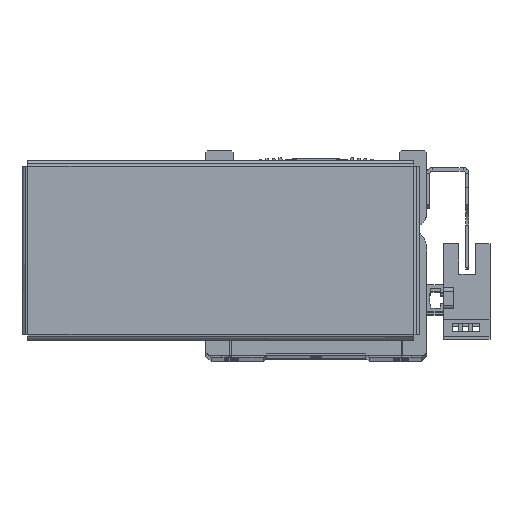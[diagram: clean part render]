
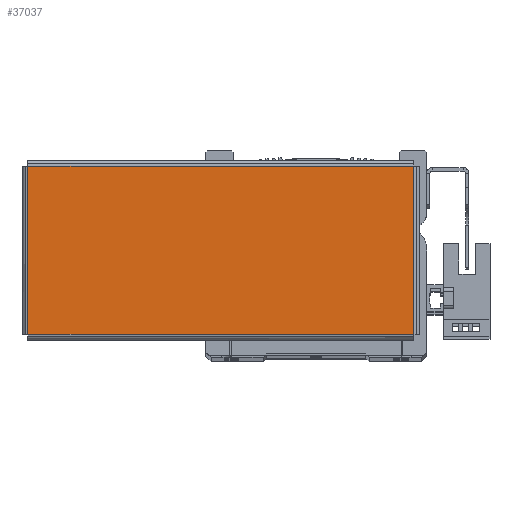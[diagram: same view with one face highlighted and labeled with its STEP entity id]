
A CAD part, top view. The second image highlights one B-rep face of the part: STEP entity #37037.
In plain terms, the highlighted planar face has unit normal (0, 0, 1) as drawn and (0, 0, -1) by its records, which use the part's own axes.
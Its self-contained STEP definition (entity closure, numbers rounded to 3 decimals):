
#3012 = AXIS2_PLACEMENT_3D ( 'NONE', #8557, #8575, #8550 ) ;
#6317 = FACE_OUTER_BOUND ( 'NONE', #31381, .T. ) ;
#7780 = VERTEX_POINT ( 'NONE', #32976 ) ;
#7792 = VERTEX_POINT ( 'NONE', #32950 ) ;
#7795 = VERTEX_POINT ( 'NONE', #33007 ) ;
#7809 = VERTEX_POINT ( 'NONE', #33056 ) ;
#8541 = PLANE ( 'NONE',  #3012 ) ;
#8550 = DIRECTION ( 'NONE',  ( 1., 0., 0. ) ) ;
#8557 = CARTESIAN_POINT ( 'NONE',  ( 0., 0., -1. ) ) ;
#8575 = DIRECTION ( 'NONE',  ( 0., 0., 1. ) ) ;
#12066 = LINE ( 'NONE', #12689, #12099 ) ;
#12068 = VECTOR ( 'NONE', #12706, 1000. ) ;
#12099 = VECTOR ( 'NONE', #12704, 1000. ) ;
#12107 = VECTOR ( 'NONE', #12687, 1000. ) ;
#12108 = LINE ( 'NONE', #12680, #12107 ) ;
#12125 = LINE ( 'NONE', #12730, #12068 ) ;
#12138 = LINE ( 'NONE', #12805, #12186 ) ;
#12186 = VECTOR ( 'NONE', #12791, 1000. ) ;
#12680 = CARTESIAN_POINT ( 'NONE',  ( 56.893, -24.763, -1. ) ) ;
#12687 = DIRECTION ( 'NONE',  ( -1., 0., 0. ) ) ;
#12689 = CARTESIAN_POINT ( 'NONE',  ( 56.863, 24.793, -1. ) ) ;
#12704 = DIRECTION ( 'NONE',  ( 0., -1., 0. ) ) ;
#12706 = DIRECTION ( 'NONE',  ( 0., 1., 0. ) ) ;
#12730 = CARTESIAN_POINT ( 'NONE',  ( -56.863, -24.793, -1. ) ) ;
#12791 = DIRECTION ( 'NONE',  ( 1., 0., 0. ) ) ;
#12805 = CARTESIAN_POINT ( 'NONE',  ( -56.893, 24.763, -1. ) ) ;
#31381 = EDGE_LOOP ( 'NONE', ( #39604, #39587, #39552, #39575 ) ) ;
#32950 = CARTESIAN_POINT ( 'NONE',  ( -56.863, 24.763, -1. ) ) ;
#32976 = CARTESIAN_POINT ( 'NONE',  ( 56.863, 24.763, -1. ) ) ;
#33007 = CARTESIAN_POINT ( 'NONE',  ( 56.863, -24.763, -1. ) ) ;
#33056 = CARTESIAN_POINT ( 'NONE',  ( -56.863, -24.763, -1. ) ) ;
#37037 = ADVANCED_FACE ( 'NONE', ( #6317 ), #8541, .F. ) ;
#39552 = ORIENTED_EDGE ( 'NONE', *, *, #41903, .T. ) ;
#39575 = ORIENTED_EDGE ( 'NONE', *, *, #41931, .T. ) ;
#39587 = ORIENTED_EDGE ( 'NONE', *, *, #41888, .T. ) ;
#39604 = ORIENTED_EDGE ( 'NONE', *, *, #41899, .T. ) ;
#41888 = EDGE_CURVE ( 'NONE', #7795, #7809, #12108, .T. ) ;
#41899 = EDGE_CURVE ( 'NONE', #7780, #7795, #12066, .T. ) ;
#41903 = EDGE_CURVE ( 'NONE', #7809, #7792, #12125, .T. ) ;
#41931 = EDGE_CURVE ( 'NONE', #7792, #7780, #12138, .T. ) ;
